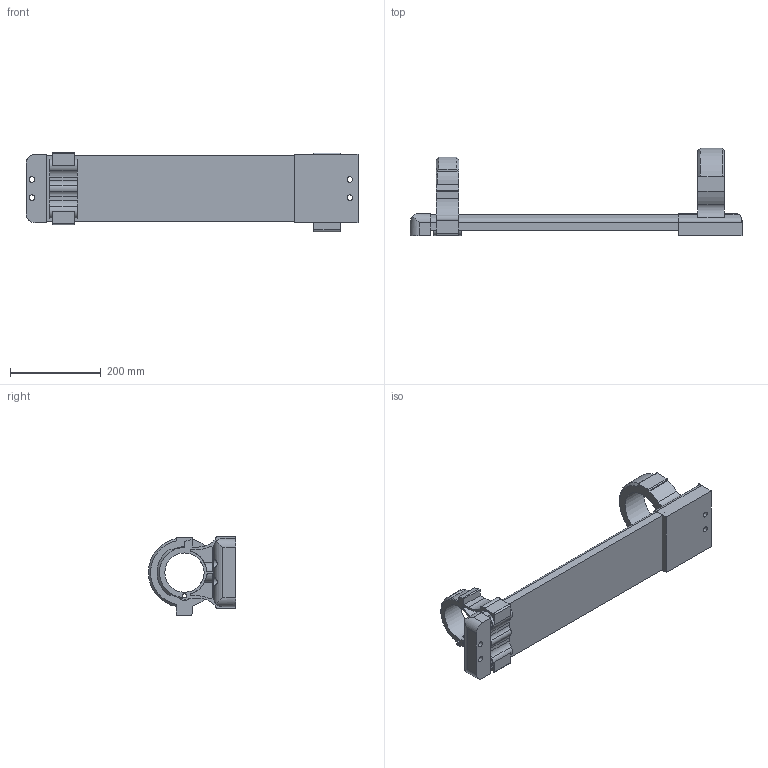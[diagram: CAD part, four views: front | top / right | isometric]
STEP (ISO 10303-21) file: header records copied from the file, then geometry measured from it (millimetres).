
FILE_DESCRIPTION( ( 'STEP AP214' ), '1' );
FILE_NAME( 'e:/temp/worker_38/temp/exporttempdir_5200_132_hQVpR/format_0/ROBOWAY.stp', '2021-05-04T07:56:36', ( 'License CC BY-ND 4.0' ), ( 'CADENAS' ), ' ', 'PARTsolutions', ' ' );
FILE_SCHEMA( ( 'AUTOMOTIVE_DESIGN { 1 0 10303 214 1 1 1 1 }' ) );
Length unit declared in the file: millimetre
Products named in the file (5): 127452319 RW-95 450L; _RWM-95; _RWR-95; _ST-RAIL 95-450; _RWF-95
Assembly tree (6 placements, depth 2):
  127452319 RW-95 450L
    _RWM-95
    _RWR-95
    _ST-RAIL 95-450  x2
    _RWF-95  x2
Bounding box: 730 x 192.3 x 174.98 mm (x, y, z)
Volume: 8992221.2 mm3; surface area: 796627.8 mm2
Topology: 6 solids, 6 shells, 260 faces, 729 edges, 487 vertices
Faces by surface type: cylinder 129, plane 125, cone 6
Full cylindrical faces by diameter (mm): 9 x1, 12 x6, 17 x1, 18 x6, 24 x2, 35 x1, 86.4 x1, 109 x2
Entity records: 8752 total; most frequent: CARTESIAN_POINT 1722, DIRECTION 1136, ORIENTED_EDGE 1092, EDGE_CURVE 546, AXIS2_PLACEMENT_3D 410, VERTEX_POINT 374, LINE 316, VECTOR 316
